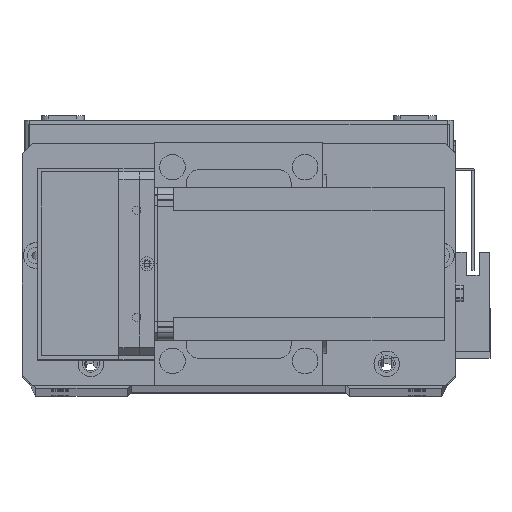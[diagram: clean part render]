
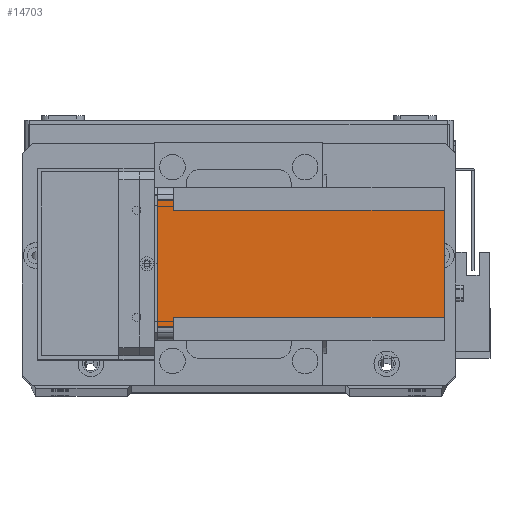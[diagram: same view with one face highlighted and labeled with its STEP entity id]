
A CAD part, top view. The second image highlights one B-rep face of the part: STEP entity #14703.
In plain terms, the highlighted planar face has unit normal (0, 0, 1) as drawn and (-1, 0, 0) by its records, which use the part's own axes.
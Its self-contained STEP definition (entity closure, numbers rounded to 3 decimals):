
#272 = LINE ( 'NONE', #29775, #6214 ) ;
#565 = CARTESIAN_POINT ( 'NONE',  ( 0., 51., -112.5 ) ) ;
#1251 = CARTESIAN_POINT ( 'NONE',  ( 0., 0., -112.5 ) ) ;
#1466 = CARTESIAN_POINT ( 'NONE',  ( 0., 5., -112.5 ) ) ;
#2158 = DIRECTION ( 'NONE',  ( 0., 0., -1. ) ) ;
#3111 = DIRECTION ( 'NONE',  ( 0., 0., 1. ) ) ;
#3297 = EDGE_CURVE ( 'NONE', #4000, #16096, #272, .T. ) ;
#3786 = DIRECTION ( 'NONE',  ( 0., -1., 0. ) ) ;
#4000 = VERTEX_POINT ( 'NONE', #12143 ) ;
#4229 = LINE ( 'NONE', #1251, #30519 ) ;
#4468 = ORIENTED_EDGE ( 'NONE', *, *, #13779, .T. ) ;
#4723 = LINE ( 'NONE', #24744, #19034 ) ;
#5448 = ORIENTED_EDGE ( 'NONE', *, *, #7697, .T. ) ;
#6214 = VECTOR ( 'NONE', #11966, 1000. ) ;
#6455 = ORIENTED_EDGE ( 'NONE', *, *, #3297, .F. ) ;
#7391 = ORIENTED_EDGE ( 'NONE', *, *, #15581, .T. ) ;
#7697 = EDGE_CURVE ( 'NONE', #14103, #16096, #18888, .T. ) ;
#8009 = DIRECTION ( 'NONE',  ( 0., -1., 0. ) ) ;
#8407 = CARTESIAN_POINT ( 'NONE',  ( 0., 55., 0. ) ) ;
#8882 = ORIENTED_EDGE ( 'NONE', *, *, #25042, .F. ) ;
#9087 = CARTESIAN_POINT ( 'NONE',  ( 0., 9., -112.5 ) ) ;
#9198 = DIRECTION ( 'NONE',  ( 0., 0., -1. ) ) ;
#10341 = VERTEX_POINT ( 'NONE', #23985 ) ;
#10429 = VERTEX_POINT ( 'NONE', #21963 ) ;
#10780 = AXIS2_PLACEMENT_3D ( 'NONE', #15511, #23213, #8009 ) ;
#11590 = VECTOR ( 'NONE', #3111, 1000. ) ;
#11966 = DIRECTION ( 'NONE',  ( 0., 1., 0. ) ) ;
#12143 = CARTESIAN_POINT ( 'NONE',  ( 0., 51., -6.5 ) ) ;
#12210 = EDGE_CURVE ( 'NONE', #14103, #23387, #4723, .T. ) ;
#13779 = EDGE_CURVE ( 'NONE', #10429, #18301, #4229, .T. ) ;
#14103 = VERTEX_POINT ( 'NONE', #8407 ) ;
#14703 = ADVANCED_FACE ( 'NONE', ( #19250 ), #20664, .T. ) ;
#14797 = CARTESIAN_POINT ( 'NONE',  ( 0., 55., -112.5 ) ) ;
#14847 = VECTOR ( 'NONE', #24300, 1000. ) ;
#15479 = VERTEX_POINT ( 'NONE', #26446 ) ;
#15511 = CARTESIAN_POINT ( 'NONE',  ( 0., 0., -112.5 ) ) ;
#15581 = EDGE_CURVE ( 'NONE', #10341, #23387, #21564, .T. ) ;
#16096 = VERTEX_POINT ( 'NONE', #19274 ) ;
#17019 = VECTOR ( 'NONE', #31751, 1000. ) ;
#17857 = ORIENTED_EDGE ( 'NONE', *, *, #24564, .F. ) ;
#18064 = ORIENTED_EDGE ( 'NONE', *, *, #27057, .F. ) ;
#18301 = VERTEX_POINT ( 'NONE', #22189 ) ;
#18354 = EDGE_LOOP ( 'NONE', ( #17857, #7391, #26396, #5448, #6455, #8882, #4468, #18064 ) ) ;
#18888 = LINE ( 'NONE', #14797, #24032 ) ;
#19034 = VECTOR ( 'NONE', #19621, 1000. ) ;
#19190 = CARTESIAN_POINT ( 'NONE',  ( 0., 5., 0. ) ) ;
#19250 = FACE_OUTER_BOUND ( 'NONE', #18354, .T. ) ;
#19274 = CARTESIAN_POINT ( 'NONE',  ( 0., 55., -6.5 ) ) ;
#19621 = DIRECTION ( 'NONE',  ( 0., -1., 0. ) ) ;
#20664 = PLANE ( 'NONE',  #10780 ) ;
#21431 = CARTESIAN_POINT ( 'NONE',  ( 0., 0., -6.5 ) ) ;
#21564 = LINE ( 'NONE', #1466, #14847 ) ;
#21963 = CARTESIAN_POINT ( 'NONE',  ( 0., 51., -112.5 ) ) ;
#22189 = CARTESIAN_POINT ( 'NONE',  ( 0., 9., -112.5 ) ) ;
#23213 = DIRECTION ( 'NONE',  ( -1., 0., 0. ) ) ;
#23387 = VERTEX_POINT ( 'NONE', #19190 ) ;
#23985 = CARTESIAN_POINT ( 'NONE',  ( 0., 5., -6.5 ) ) ;
#24032 = VECTOR ( 'NONE', #2158, 1000. ) ;
#24300 = DIRECTION ( 'NONE',  ( 0., 0., 1. ) ) ;
#24564 = EDGE_CURVE ( 'NONE', #10341, #15479, #30607, .T. ) ;
#24744 = CARTESIAN_POINT ( 'NONE',  ( 0., 0., 0. ) ) ;
#25042 = EDGE_CURVE ( 'NONE', #10429, #4000, #27539, .T. ) ;
#25815 = VECTOR ( 'NONE', #9198, 1000. ) ;
#26396 = ORIENTED_EDGE ( 'NONE', *, *, #12210, .F. ) ;
#26446 = CARTESIAN_POINT ( 'NONE',  ( 0., 9., -6.5 ) ) ;
#26639 = LINE ( 'NONE', #9087, #25815 ) ;
#27057 = EDGE_CURVE ( 'NONE', #15479, #18301, #26639, .T. ) ;
#27539 = LINE ( 'NONE', #565, #11590 ) ;
#29775 = CARTESIAN_POINT ( 'NONE',  ( 0., 60., -6.5 ) ) ;
#30519 = VECTOR ( 'NONE', #3786, 1000. ) ;
#30607 = LINE ( 'NONE', #21431, #17019 ) ;
#31751 = DIRECTION ( 'NONE',  ( 0., 1., 0. ) ) ;
